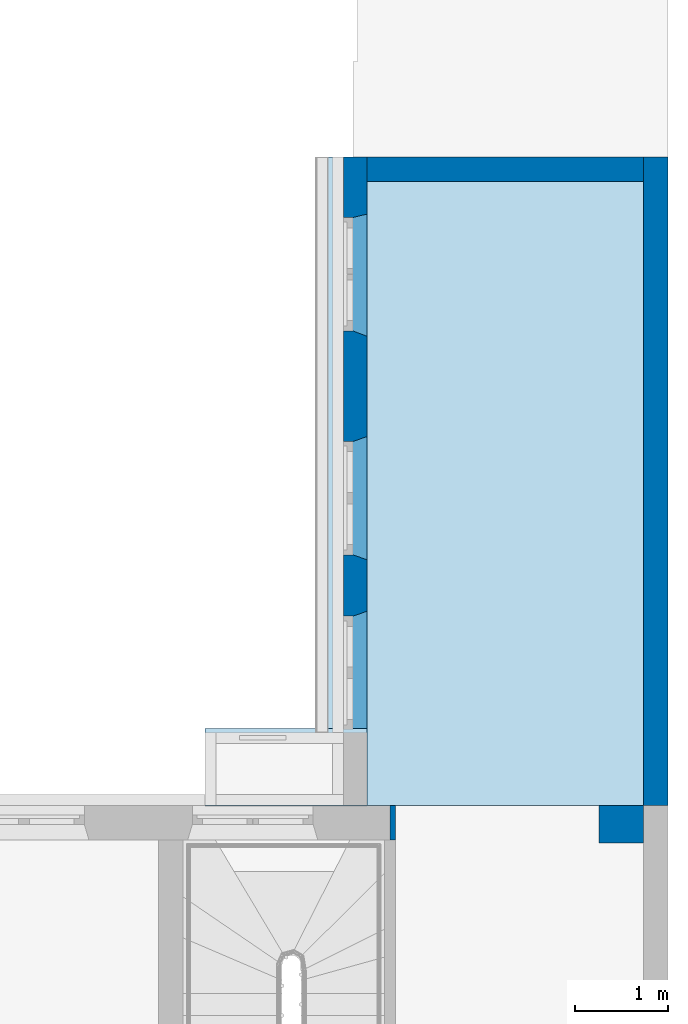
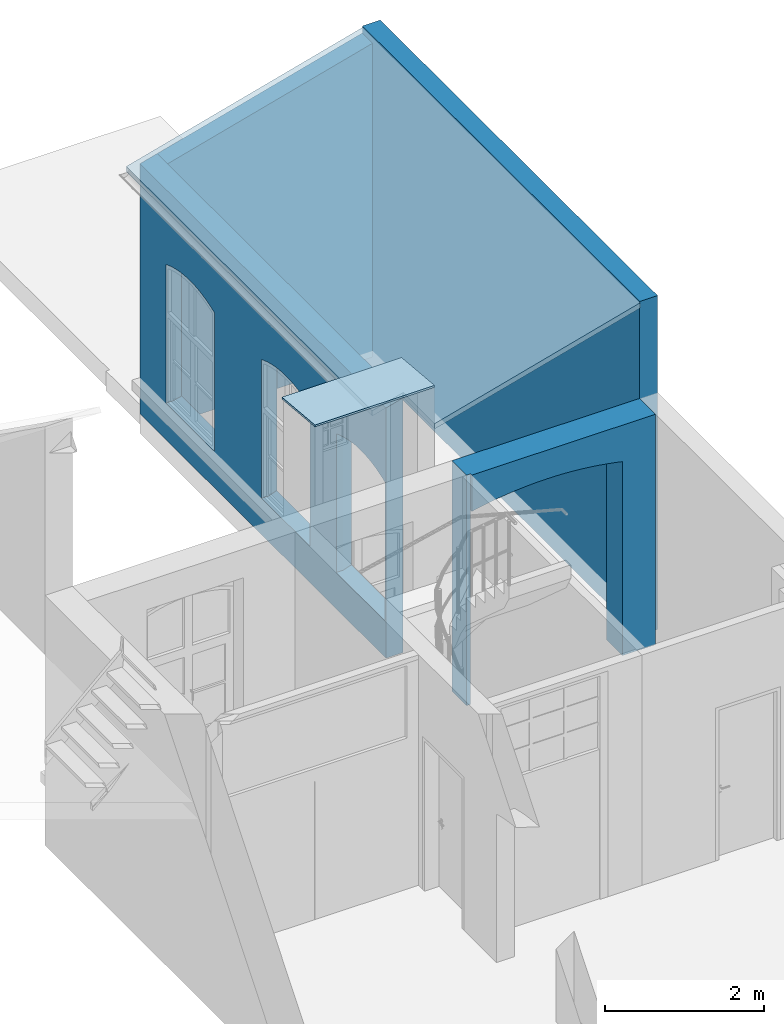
"""IFC4 building model written with IfcOpenShell, lengths in metres."""

from ifc_helpers import new_model, entity, si_unit, converted_unit, derived_unit, frame, frame_2d, origin, origin_with_axes, place, context, subcontext, project, spatial, polyline, rectangle, outline, extrude, clip, halfspace, faceted_brep, material, layer, layer_set, layer_usage, element, save


model = new_model("IFC4")

# Units and contexts
model_context = context("Model", 3, precision=1e-05, world=origin())
body_context = subcontext(model_context, "Body", "Model", "MODEL_VIEW")
ifc_project = project(units=[si_unit("LENGTHUNIT", "METRE"), si_unit("AREAUNIT", "SQUARE_METRE"), si_unit("VOLUMEUNIT", "CUBIC_METRE"), si_unit("MASSUNIT", "GRAM", prefix="KILO"), converted_unit("PLANEANGLEUNIT", "DEGREE", entity("IfcPlaneAngleMeasure", 0.0174532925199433), si_unit("PLANEANGLEUNIT", "RADIAN"), dimensions=[0, 0, 0, 0, 0, 0, 0]), derived_unit("THERMALTRANSMITTANCEUNIT", [(si_unit("POWERUNIT", "WATT"), 1), (si_unit("THERMODYNAMICTEMPERATUREUNIT", "KELVIN"), -1), (si_unit("LENGTHUNIT", "METRE"), -2)]), derived_unit("VOLUMETRICFLOWRATEUNIT", [(si_unit("LENGTHUNIT", "METRE"), 3), (converted_unit("TIMEUNIT", "hour", entity("IfcTimeMeasure", 3600.0), si_unit("TIMEUNIT", "SECOND"), dimensions=[0, 0, 1, 0, 0, 0, 0]), -1), (si_unit("LENGTHUNIT", "METRE"), -1)])], contexts=[model_context])

# Building, storeys
building_placement = place(None, origin())
building = spatial("IfcBuilding", under=ifc_project, at=building_placement, Name="Bestandsgebäude A - Sporthalle / Wohnhaus (TB 100-499)   ANPASSEN !!!", CompositionType="ELEMENT")
storey_1_placement = place(building_placement, frame((0.0, 0.0, 3.87)))
storey_1 = spatial("IfcBuildingStorey", under=building, at=storey_1_placement, Name="Geb. A 1. Obergeschoss (TB 250-299)", CompositionType="ELEMENT", Elevation=3.87)
storey_2_placement = place(storey_1_placement, frame((0.0, 0.0, 3.87)))
storey_2 = spatial("IfcBuildingStorey", under=storey_1, at=storey_2_placement, Name="Architektur (TB 250-259)", CompositionType="PARTIAL")

# Wall, opening
ifc_material_1 = material(Name="masonry")
ifc_layer_1 = layer(ifc_material_1, 0.4)
ifc_layer_set_1 = layer_set([ifc_layer_1])
ifc_layer_usage_1 = layer_usage(ifc_layer_set_1, "AXIS2", "POSITIVE", 0.0)
wall_1_placement = place(storey_2_placement, frame((-2.93, 8.85, -3.97)))
wall_1 = element("IfcWall", 1, at=wall_1_placement, inside=storey_2, material=ifc_layer_usage_1, Name="masonry load-bearing", PredefinedType="USERDEFINED", context=body_context, shape_type="SweptSolid", body=[
    extrude(outline(polyline([(0.0599999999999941, 0.0), (2.72999999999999, 0.0), (2.72999999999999, 0.4), (0.0, 0.4), (0.0, 0.0299999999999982), (0.0599999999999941, 0.0299999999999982), (0.0599999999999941, 0.0)])), frame((-0.0599999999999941, 0.0, 0.0), z_axis=(0.0, 0.0, 1.0), x_axis=(1.0, 0.0, 0.0)), (0.0, 0.0, 1.0), 3.54),
])
opening_1_placement = place(wall_1_placement, frame((2.18999999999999, 0.4, 0.0), z_axis=(0.0, -1.0, 0.0), x_axis=(0.0, 0.0, 1.0)))
element("IfcOpeningElement", 2, at=opening_1_placement, cuts=wall_1, Name="Door opening", PredefinedType="OPENING", context=body_context, shape_type="SweptSolid", body=[
    extrude(outline(polyline([(2.98, 2.19), (2.99541310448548, 2.11804994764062), (3.00977746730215, 2.04588320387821), (3.02309004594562, 1.97351505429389), (3.03534802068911, 1.90096082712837), (3.04654879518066, 1.82823589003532), (3.05668999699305, 1.75535564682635), (3.06576947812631, 1.68233553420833), (3.0737853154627, 1.60919101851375), (3.08073581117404, 1.53593759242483), (3.0866194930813, 1.46259077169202), (3.09143511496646, 1.38916609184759), (3.09518165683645, 1.31567910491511), (3.09785832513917, 1.24214537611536), (3.09946455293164, 1.16858048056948), (3.1, 1.095), (3.09946455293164, 1.02141951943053), (3.09785832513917, 0.947854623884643), (3.09518165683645, 0.874320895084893), (3.09143511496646, 0.800833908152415), (3.0866194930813, 0.727409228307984), (3.08073581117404, 0.654062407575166), (3.0737853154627, 0.580808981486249), (3.06576947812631, 0.50766446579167), (3.05668999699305, 0.434644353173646), (3.04654879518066, 0.361764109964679), (3.03534802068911, 0.289039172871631), (3.02309004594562, 0.216484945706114), (3.00977746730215, 0.14411679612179), (2.99541310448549, 0.0719500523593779), (2.98, 0.0), (0.0, 0.0), (0.0, 2.19), (2.98, 2.19)])), origin_with_axes(), (0.0, 0.0, 1.0), 0.4),
])

# Walls
ifc_material_2 = material(Name="masonry")
ifc_layer_2 = layer(ifc_material_2, 0.26)
ifc_layer_set_2 = layer_set([ifc_layer_2])
ifc_layer_usage_2 = layer_usage(ifc_layer_set_2, "AXIS2", "POSITIVE", 0.0)
wall_2_placement = place(storey_2_placement, frame((-0.259999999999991, 16.23, -3.87), z_axis=(0.0, 0.0, 1.0), x_axis=(-1.0, 1.22079825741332e-15, 0.0)))
element("IfcWall", 3, at=wall_2_placement, inside=storey_2, material=ifc_layer_usage_2, Name="masonry load-bearing", PredefinedType="USERDEFINED", context=body_context, shape_type="Clipping", body=[
    clip(extrude(rectangle(XDim=2.98000000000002, YDim=0.26, at=frame_2d((1.49000000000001, 0.13), x_axis=(1.0, 0.0))), origin_with_axes(), (0.0, 0.0, 1.0), 4.82191037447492), halfspace(frame((1.49000000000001, 0.13, 4.41708633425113), z_axis=(-0.262189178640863, 1.99199547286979e-16, -0.965016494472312), x_axis=(-0.965016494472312, 0.0, 0.262189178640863)), True)),
])
ifc_material_3 = material(Name="concrete")
ifc_layer_3 = layer(ifc_material_3, 0.26)
ifc_layer_set_3 = layer_set([ifc_layer_3])
ifc_layer_usage_3 = layer_usage(ifc_layer_set_3, "AXIS2", "POSITIVE", 0.0)
wall_3_placement = place(storey_2_placement, frame((0.0, 9.25, -4.07), z_axis=(0.0, 0.0, 1.0), x_axis=(2.4492935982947e-16, 1.0, 0.0)))
element("IfcWall", 4, at=wall_3_placement, inside=storey_2, material=ifc_layer_usage_3, Name="reinforced - bearing", PredefinedType="USERDEFINED", context=body_context, shape_type="SweptSolid", body=[
    extrude(rectangle(XDim=6.98, YDim=0.26, at=frame_2d((3.49, 0.13), x_axis=(1.0, 0.0))), origin_with_axes(), (0.0, 0.0, 1.0), 5.13),
])

# Wall, openings
ifc_material_4 = material(Name="concrete")
ifc_layer_4 = layer(ifc_material_4, 0.250000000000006)
ifc_layer_set_4 = layer_set([ifc_layer_4])
ifc_layer_usage_4 = layer_usage(ifc_layer_set_4, "AXIS2", "POSITIVE", 0.0)
wall_4_placement = place(storey_2_placement, frame((-3.49000000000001, 16.23, -3.77), z_axis=(0.0, 0.0, 1.0), x_axis=(-2.93859354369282e-16, -1.0, 0.0)))
wall_4 = element("IfcWall", 5, at=wall_4_placement, inside=storey_2, material=ifc_layer_usage_4, Name="reinforced - bearing", PredefinedType="USERDEFINED", context=body_context, shape_type="Clipping", body=[
    clip(extrude(rectangle(XDim=6.19, YDim=0.250000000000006, at=frame_2d((3.095, 0.125000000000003), x_axis=(1.0, 0.0))), origin_with_axes(), (0.0, 0.0, 1.0), 3.91226229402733), halfspace(frame((3.095, 0.125000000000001, 3.87830054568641), z_axis=(-5.43332944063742e-17, 0.262189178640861, -0.965016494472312), x_axis=(-1.0, -9.55042901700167e-16, -1.46929677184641e-16)), True)),
])
opening_2_placement = place(wall_4_placement, frame((6.19, 0.250000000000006, 0.56), z_axis=(0.0, 0.0, 1.0), x_axis=(-1.0, -4.47740754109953e-15, 0.0)))
element("IfcOpeningElement", 6, at=opening_2_placement, cuts=wall_4, Name="Wall Niche", ObjectType="Opening", context=body_context, shape_type="SweptSolid", body=[
    extrude(outline(polyline([(0.0, 0.0), (1.3013, 0.0), (1.25, 0.150000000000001), (0.0284009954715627, 0.150000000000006), (0.0, 0.0)])), origin_with_axes(), (0.0, 0.0, 1.0), 2.24999454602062),
])
opening_3_placement = place(wall_4_placement, frame((1.92680080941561, 0.25, 0.56), z_axis=(0.0, 0.0, 1.0), x_axis=(-1.0, 4.32852708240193e-17, 0.0)))
element("IfcOpeningElement", 7, at=opening_3_placement, cuts=wall_4, Name="Wall Niche", ObjectType="Opening", context=body_context, shape_type="SweptSolid", body=[
    extrude(outline(polyline([(0.0, 0.0), (1.3132277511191, 0.0), (1.27680080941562, 0.15), (0.0568008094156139, 0.15), (0.0, 0.0)])), origin_with_axes(), (0.0, 0.0, 1.0), 2.25),
])
opening_4_placement = place(wall_4_placement, frame((4.33218117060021, 0.25, 0.56), z_axis=(0.0, 0.0, 1.0), x_axis=(-1.0, 4.29450356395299e-17, 0.0)))
element("IfcOpeningElement", 8, at=opening_4_placement, cuts=wall_4, Name="Wall Niche", ObjectType="Opening", context=body_context, shape_type="SweptSolid", body=[
    extrude(outline(polyline([(0.0, 0.0), (1.32363189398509, 0.0), (1.27218117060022, 0.15), (0.052181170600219, 0.15), (0.0, 0.0)])), origin_with_axes(), (0.0, 0.0, 1.0), 2.25),
])
opening_5_placement = place(wall_4_placement, frame((0.65, 0.0, 0.56), z_axis=(-4.54747350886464e-16, 1.0, 0.0), x_axis=(0.0, 0.0, 1.0)))
element("IfcOpeningElement", 9, at=opening_5_placement, cuts=wall_4, Name="Window opening", PredefinedType="OPENING", context=body_context, shape_type="SweptSolid", body=[
    extrude(outline(polyline([(2.13, 1.22), (2.14529668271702, 1.18119974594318), (2.15958346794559, 1.14201638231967), (2.17285077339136, 1.102476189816), (2.18508970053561, 1.06260568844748), (2.19629204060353, 1.02243161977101), (2.20645028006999, 0.98198092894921), (2.21555760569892, 0.941280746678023), (2.22360790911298, 0.900358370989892), (2.23059579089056, 0.859241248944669), (2.23651656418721, 0.81795695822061), (2.24136625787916, 0.776533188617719), (2.24514161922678, 0.734997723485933), (2.24784011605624, 0.693378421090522), (2.24945993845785, 0.651703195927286), (2.25, 0.61), (2.24945993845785, 0.568296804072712), (2.24784011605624, 0.526621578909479), (2.24514161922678, 0.485002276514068), (2.24136625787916, 0.443466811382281), (2.23651656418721, 0.40204304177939), (2.23059579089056, 0.360758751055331), (2.22360790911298, 0.319641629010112), (2.21555760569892, 0.278719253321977), (2.20645028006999, 0.23801907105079), (2.19629204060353, 0.19756838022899), (2.1850897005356, 0.15739431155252), (2.17285077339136, 0.117523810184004), (2.15958346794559, 0.0779836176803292), (2.14529668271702, 0.0388002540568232), (2.13, 0.0), (0.0, 0.0), (0.0, 1.22), (2.13, 1.22)])), origin_with_axes(), (0.0, 0.0, 1.0), 0.25),
])
opening_6_placement = place(wall_4_placement, frame((3.05999999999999, 0.0, 0.56), z_axis=(0.0, 1.0, 0.0), x_axis=(0.0, 0.0, 1.0)))
element("IfcOpeningElement", 10, at=opening_6_placement, cuts=wall_4, Name="Window opening", PredefinedType="OPENING", context=body_context, shape_type="SweptSolid", body=[
    extrude(outline(polyline([(2.13, 1.22), (2.14529668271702, 1.18119974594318), (2.15958346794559, 1.14201638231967), (2.17285077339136, 1.102476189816), (2.18508970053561, 1.06260568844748), (2.19629204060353, 1.02243161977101), (2.20645028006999, 0.98198092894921), (2.21555760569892, 0.941280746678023), (2.22360790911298, 0.90035837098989), (2.23059579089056, 0.859241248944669), (2.23651656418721, 0.81795695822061), (2.24136625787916, 0.776533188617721), (2.24514161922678, 0.734997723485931), (2.24784011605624, 0.693378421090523), (2.24945993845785, 0.651703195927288), (2.25, 0.609999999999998), (2.24945993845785, 0.568296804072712), (2.24784011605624, 0.526621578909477), (2.24514161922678, 0.485002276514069), (2.24136625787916, 0.443466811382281), (2.23651656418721, 0.40204304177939), (2.23059579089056, 0.360758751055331), (2.22360790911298, 0.31964162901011), (2.21555760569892, 0.278719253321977), (2.20645028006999, 0.23801907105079), (2.19629204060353, 0.19756838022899), (2.1850897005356, 0.15739431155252), (2.17285077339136, 0.117523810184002), (2.15958346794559, 0.0779836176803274), (2.14529668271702, 0.0388002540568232), (2.13, 0.0), (0.0, 0.0), (0.0, 1.22), (2.13, 1.22)])), origin_with_axes(), (0.0, 0.0, 1.0), 0.25),
])
opening_7_placement = place(wall_4_placement, frame((4.94, 0.0, 0.56), z_axis=(0.0, 1.0, 0.0), x_axis=(0.0, 0.0, 1.0)))
element("IfcOpeningElement", 11, at=opening_7_placement, cuts=wall_4, Name="Window opening", PredefinedType="OPENING", context=body_context, shape_type="SweptSolid", body=[
    extrude(outline(polyline([(2.13, 1.22), (2.14529668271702, 1.18119974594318), (2.15958346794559, 1.14201638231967), (2.17285077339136, 1.102476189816), (2.18508970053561, 1.06260568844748), (2.19629204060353, 1.02243161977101), (2.20645028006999, 0.98198092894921), (2.21555760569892, 0.941280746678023), (2.22360790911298, 0.90035837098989), (2.23059579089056, 0.859241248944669), (2.23651656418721, 0.81795695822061), (2.24136625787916, 0.776533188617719), (2.24514161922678, 0.734997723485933), (2.24784011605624, 0.693378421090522), (2.24945993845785, 0.651703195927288), (2.25, 0.61), (2.24945993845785, 0.568296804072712), (2.24784011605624, 0.526621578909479), (2.24514161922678, 0.485002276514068), (2.24136625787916, 0.443466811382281), (2.23651656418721, 0.40204304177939), (2.23059579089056, 0.360758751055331), (2.22360790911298, 0.31964162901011), (2.21555760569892, 0.278719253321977), (2.20645028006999, 0.23801907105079), (2.19629204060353, 0.19756838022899), (2.1850897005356, 0.157394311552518), (2.17285077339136, 0.117523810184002), (2.15958346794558, 0.0779836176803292), (2.14529668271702, 0.0388002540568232), (2.13, 0.0), (0.0, 0.0), (0.0, 1.22), (2.13, 1.22)])), origin_with_axes(), (0.0, 0.0, 1.0), 0.25),
])

# Roofs
roof_1_placement = place(storey_2_placement, frame((-4.98000000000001, 9.24728623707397, 0.710246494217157)))
element("IfcRoof", 12, at=roof_1_placement, inside=storey_2, PredefinedType="NOTDEFINED", context=body_context, shape_type="Brep", body=[
    faceted_brep([(0.0, 0.83, 0.0), (0.0, 0.0, 0.0753898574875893), (1.74000000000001, 0.0, 0.0753898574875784), (1.74000000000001, 0.83, 0.0), (0.0, 0.832713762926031, 0.0298770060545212), (1.74000000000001, 0.832713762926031, 0.0298770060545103), (1.74000000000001, 0.00271376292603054, 0.105266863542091), (0.0, 0.00271376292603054, 0.105266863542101), (0.0, 0.0, 0.105266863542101), (0.0, 0.832713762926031, 0.0), (1.74000000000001, 0.832713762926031, 0.0), (1.74000000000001, 0.0, 0.105266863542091)], [[[0, 1, 2, 3]], [[4, 5, 6, 7]], [[4, 7, 8, 1, 0, 9]], [[6, 5, 10, 3, 2, 11]], [[8, 11, 2, 1]], [[7, 6, 11, 8]], [[10, 9, 0, 3]], [[5, 4, 9, 10]]], orient=[[False], [False], [False], [False], [False], [False], [False], [False]]),
])
roof_2_placement = place(storey_2_placement, frame((-3.69000000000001, 9.25, 0.0256988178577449)))
element("IfcRoof", 13, at=roof_2_placement, inside=storey_2, PredefinedType="NOTDEFINED", context=body_context, shape_type="Brep", body=[
    faceted_brep([(0.470975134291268, 0.0, 0.12226229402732), (3.45097513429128, 0.0, 0.931910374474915), (3.45097513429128, 6.98, 0.931910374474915), (0.0209751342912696, 6.98, 0.0), (0.0209751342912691, 0.790000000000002, 0.0), (0.470975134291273, 0.790000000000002, 0.122262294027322), (0.449999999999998, 0.0, 0.199463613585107), (0.450000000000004, 0.790000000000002, 0.199463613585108), (0.0, 0.790000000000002, 0.0772013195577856), (0.0, 6.98, 0.0772013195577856), (3.43000000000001, 6.98, 1.0091116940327), (3.43000000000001, 0.0, 1.0091116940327), (3.45097513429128, 0.0, 1.0091116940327), (0.449999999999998, 0.0, 0.122262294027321), (0.0, 6.98, 0.0), (3.45097513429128, 6.98, 1.0091116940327), (0.450000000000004, 0.790000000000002, 0.122262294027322), (0.0, 0.790000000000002, 0.0)], [[[0, 1, 2, 3, 4, 5]], [[6, 7, 8, 9, 10, 11]], [[6, 11, 12, 1, 0, 13]], [[10, 9, 14, 3, 2, 15]], [[8, 7, 16, 5, 4, 17]], [[12, 15, 2, 1]], [[11, 10, 15, 12]], [[14, 17, 4, 3]], [[9, 8, 17, 14]], [[16, 13, 0, 5]], [[7, 6, 13, 16]]], orient=[[False], [False], [False], [False], [False], [False], [False], [False], [False], [False], [False]]),
])

save(model, "model.ifc")
